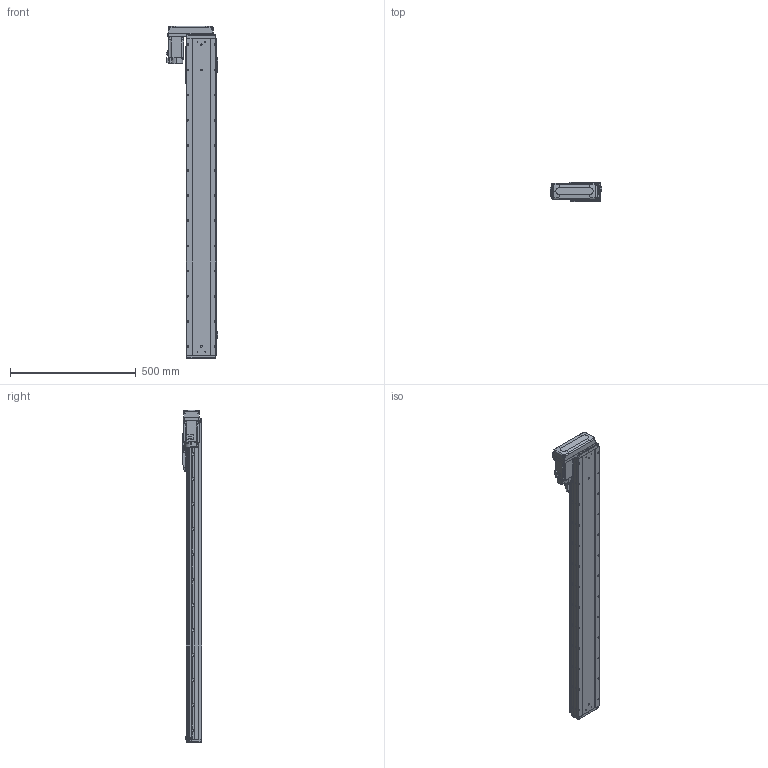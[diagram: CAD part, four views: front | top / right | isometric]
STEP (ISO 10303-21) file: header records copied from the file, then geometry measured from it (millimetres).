
FILE_DESCRIPTION (( 'STEP AP203' ), '1' );
FILE_NAME ('GTH12-1050-BR-M40-C4.step', '2025-07-16T03:42:57', ( '' ), ( '' ), 'SwSTEP 2.0', 'SolidWorks 2023', '' );
FILE_SCHEMA (( 'CONFIG_CONTROL_DESIGN' ));
Length unit declared in the file: millimetre
Products named in the file (18): GTH120-003; GTH80-022; GTH120-001_1050; GTH120-006; BTH-M3X5X6; GTH120-027-1_GTH120-027-2; GBT96.1-2002 3×0.8; GTH50-023; GBT 70.1-M5×16; GBT 70.1-M3×6; GTH120-013; GBT 70.3-M3×8; GTH12-1050-BR-M40-C4; hg-kn43j_-s100_; GTH50-024; CTHA86-033_M40B; GTH80-028; GTH120-004
Assembly tree (59 placements, depth 2):
  GTH12-1050-BR-M40-C4
    GTH120-001_1050
    GTH120-003
    GTH120-006
    GTH120-004
    GTH120-013
    GBT 70.1-M3×6  x14
    GBT 70.1-M5×16  x10
    GBT 70.3-M3×8  x4
    GTH80-022
    GTH80-028  x2
    GTH50-023  x3
    GTH50-024  x3
    GBT96.1-2002 3×0.8  x6
    BTH-M3X5X6  x8
    hg-kn43j_-s100_
    CTHA86-033_M40B
    GTH120-027-1_GTH120-027-2
Bounding box: 203.5 x 76 x 1320.5 mm (x, y, z)
Volume: 9461742.9 mm3; surface area: 806216.8 mm2
Topology: 61 solids, 61 shells, 2545 faces, 5966 edges, 3663 vertices
Faces by surface type: plane 1296, cylinder 753, cone 308, torus 174, sphere 8, bspline 6
Entity records: 48748 total; most frequent: CARTESIAN_POINT 8260, DIRECTION 8110, ORIENTED_EDGE 7542, EDGE_CURVE 3771, AXIS2_PLACEMENT_3D 2834, VECTOR 2442, LINE 2442, VERTEX_POINT 2384
